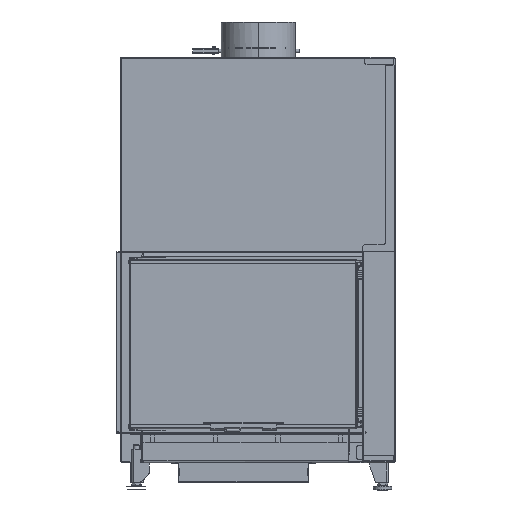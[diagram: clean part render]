
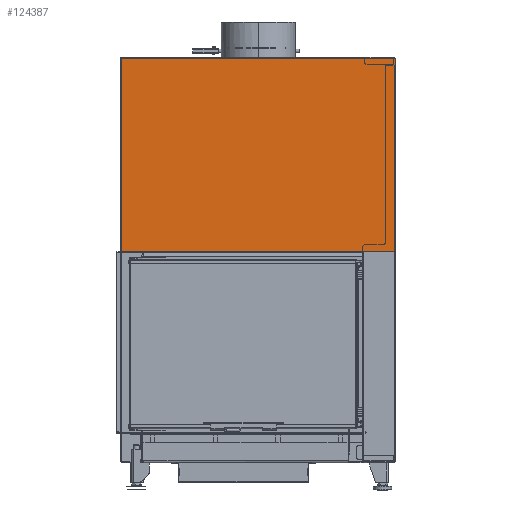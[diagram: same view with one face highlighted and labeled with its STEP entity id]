
A CAD part, front view. The second image highlights one B-rep face of the part: STEP entity #124387.
In plain terms, the highlighted planar face has unit normal (0, -1, 0).
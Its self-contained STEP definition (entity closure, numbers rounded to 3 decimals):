
#6941=CIRCLE('',#131582,0.1);
#6943=CIRCLE('',#131587,3.);
#8552=CIRCLE('',#135117,3.);
#14554=FACE_OUTER_BOUND('',#21329,.T.);
#21329=EDGE_LOOP('',(#100967,#100968,#100969,#100970,#100971,#100972,#100973,
#100974,#100975,#100976,#100977));
#28611=LINE('',#191905,#39918);
#28615=LINE('',#191914,#39922);
#28617=LINE('',#191918,#39924);
#32014=LINE('',#204342,#43321);
#32022=LINE('',#204359,#43329);
#32023=LINE('',#204362,#43330);
#32024=LINE('',#204364,#43331);
#32025=LINE('',#204365,#43332);
#39918=VECTOR('',#154070,10.);
#39922=VECTOR('',#154080,10.);
#39924=VECTOR('',#154084,10.);
#43321=VECTOR('',#164541,10.);
#43329=VECTOR('',#164553,10.);
#43330=VECTOR('',#164556,10.);
#43331=VECTOR('',#164557,10.);
#43332=VECTOR('',#164558,10.);
#50873=VERTEX_POINT('',#191902);
#50874=VERTEX_POINT('',#191904);
#50875=VERTEX_POINT('',#191908);
#50876=VERTEX_POINT('',#191912);
#50877=VERTEX_POINT('',#191916);
#50879=VERTEX_POINT('',#191922);
#54158=VERTEX_POINT('',#204339);
#54159=VERTEX_POINT('',#204341);
#54166=VERTEX_POINT('',#204358);
#54167=VERTEX_POINT('',#204361);
#54168=VERTEX_POINT('',#204363);
#64945=EDGE_CURVE('',#50873,#50874,#28611,.T.);
#64948=EDGE_CURVE('',#50875,#50873,#6941,.T.);
#64950=EDGE_CURVE('',#50876,#50875,#28615,.T.);
#64952=EDGE_CURVE('',#50877,#50876,#28617,.T.);
#64955=EDGE_CURVE('',#50877,#50879,#6943,.T.);
#70193=EDGE_CURVE('',#54158,#54159,#32014,.T.);
#70201=EDGE_CURVE('',#54166,#50879,#32022,.T.);
#70202=EDGE_CURVE('',#54166,#54159,#8552,.T.);
#70203=EDGE_CURVE('',#54167,#54158,#32023,.T.);
#70204=EDGE_CURVE('',#54168,#54167,#32024,.T.);
#70205=EDGE_CURVE('',#50874,#54168,#32025,.T.);
#100967=ORIENTED_EDGE('',*,*,#64955,.T.);
#100968=ORIENTED_EDGE('',*,*,#70201,.F.);
#100969=ORIENTED_EDGE('',*,*,#70202,.T.);
#100970=ORIENTED_EDGE('',*,*,#70193,.F.);
#100971=ORIENTED_EDGE('',*,*,#70203,.F.);
#100972=ORIENTED_EDGE('',*,*,#70204,.F.);
#100973=ORIENTED_EDGE('',*,*,#70205,.F.);
#100974=ORIENTED_EDGE('',*,*,#64945,.F.);
#100975=ORIENTED_EDGE('',*,*,#64948,.F.);
#100976=ORIENTED_EDGE('',*,*,#64950,.F.);
#100977=ORIENTED_EDGE('',*,*,#64952,.F.);
#112107=PLANE('',#135116);
#124387=ADVANCED_FACE('',(#14554),#112107,.F.);
#131582=AXIS2_PLACEMENT_3D('',#191910,#154075,#154076);
#131587=AXIS2_PLACEMENT_3D('',#191924,#154090,#154091);
#135116=AXIS2_PLACEMENT_3D('',#204357,#164551,#164552);
#135117=AXIS2_PLACEMENT_3D('',#204360,#164554,#164555);
#154070=DIRECTION('',(0.,0.,-1.));
#154075=DIRECTION('center_axis',(0.,-1.,
0.));
#154076=DIRECTION('ref_axis',(-1.,0.,0.));
#154080=DIRECTION('',(0.,0.,1.));
#154084=DIRECTION('',(-1.,0.,0.));
#154090=DIRECTION('center_axis',(0.,-1.,
0.));
#154091=DIRECTION('ref_axis',(0.707,0.,-0.707));
#164541=DIRECTION('',(1.,0.,0.));
#164551=DIRECTION('center_axis',(0.,1.,
0.));
#164552=DIRECTION('ref_axis',(-1.,0.,0.));
#164553=DIRECTION('',(0.,0.,-1.));
#164554=DIRECTION('center_axis',(0.,-1.,
0.));
#164555=DIRECTION('ref_axis',(0.707,0.,0.707));
#164556=DIRECTION('',(1.,0.,0.));
#164557=DIRECTION('',(0.,0.,1.));
#164558=DIRECTION('',(-1.,0.,0.));
#191902=CARTESIAN_POINT('',(-87.4,-59.998,582.359));
#191904=CARTESIAN_POINT('',(-87.4,-59.998,582.259));
#191905=CARTESIAN_POINT('',(-87.4,-59.994,715.947));
#191908=CARTESIAN_POINT('',(-87.2,-59.998,582.359));
#191910=CARTESIAN_POINT('Origin',(-87.3,-59.998,582.359));
#191912=CARTESIAN_POINT('',(-87.2,-59.998,582.259));
#191914=CARTESIAN_POINT('',(-87.2,-59.994,715.997));
#191916=CARTESIAN_POINT('',(-3.,-59.998,582.259));
#191918=CARTESIAN_POINT('',(0.,-59.998,582.259));
#191922=CARTESIAN_POINT('',(0.,-59.998,585.259));
#191924=CARTESIAN_POINT('Origin',(-3.,-59.998,585.259));
#204339=CARTESIAN_POINT('',(-84.15,-59.983,1114.259));
#204341=CARTESIAN_POINT('',(-3.,-59.983,1114.259));
#204342=CARTESIAN_POINT('',(-84.15,-59.983,1114.259));
#204357=CARTESIAN_POINT('Origin',(-420.775,-59.99,849.634));
#204358=CARTESIAN_POINT('',(0.,-59.983,1111.259));
#204359=CARTESIAN_POINT('',(0.,-59.983,1114.259));
#204360=CARTESIAN_POINT('Origin',(-3.,-59.983,1111.259));
#204361=CARTESIAN_POINT('',(-754.65,-59.983,1114.259));
#204362=CARTESIAN_POINT('',(-589.088,-59.983,1114.259));
#204363=CARTESIAN_POINT('',(-754.65,-59.998,582.259));
#204364=CARTESIAN_POINT('',(-754.65,-59.994,715.947));
#204365=CARTESIAN_POINT('',(0.,-59.998,582.259));
